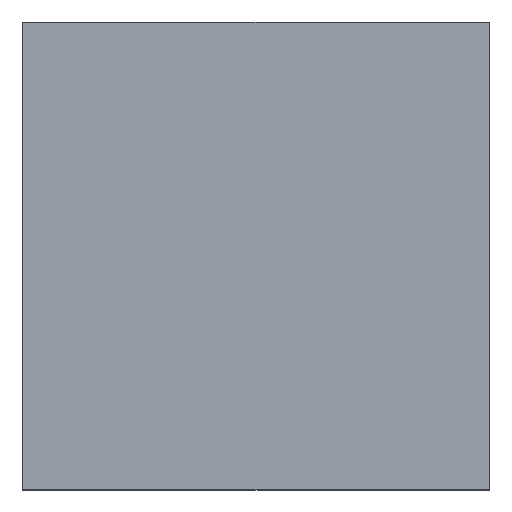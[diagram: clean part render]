
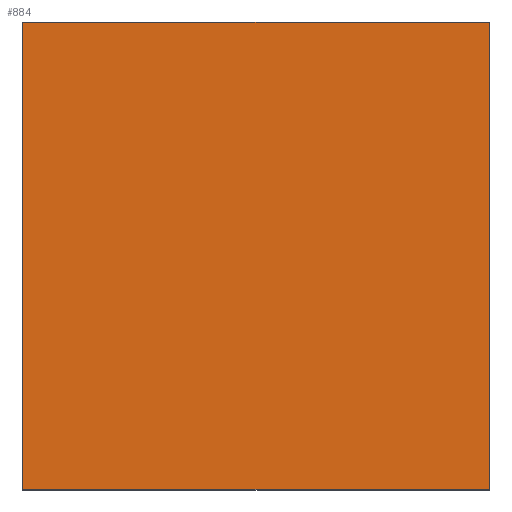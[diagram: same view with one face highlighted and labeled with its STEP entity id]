
A CAD part, top view. The second image highlights one B-rep face of the part: STEP entity #884.
In plain terms, the highlighted planar face has unit normal (0, 0, 1).
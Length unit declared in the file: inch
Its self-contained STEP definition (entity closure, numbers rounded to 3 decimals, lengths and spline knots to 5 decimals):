
#95 = VERTEX_POINT ( 'NONE', #1019 ) ;
#138 = CARTESIAN_POINT ( 'NONE',  ( -1.38973, 4.0492, 5.60755 ) ) ;
#879 = DIRECTION ( 'NONE',  ( 0., 0., -1. ) ) ;
#884 = ADVANCED_FACE ( 'NONE', ( #14797 ), #10599, .F. ) ;
#1019 = CARTESIAN_POINT ( 'NONE',  ( 2.60527, 4.0492, 5.60755 ) ) ;
#1680 = ORIENTED_EDGE ( 'NONE', *, *, #26769, .T. ) ;
#2597 = CARTESIAN_POINT ( 'NONE',  ( 2.60527, 0.0492, 5.60755 ) ) ;
#2974 = DIRECTION ( 'NONE',  ( 0., -1., 0. ) ) ;
#3221 = DIRECTION ( 'NONE',  ( 0., 1., 0. ) ) ;
#5068 = CARTESIAN_POINT ( 'NONE',  ( -1.38973, 0.0492, 5.60755 ) ) ;
#6098 = VERTEX_POINT ( 'NONE', #5068 ) ;
#7230 = DIRECTION ( 'NONE',  ( 0., -1., 0. ) ) ;
#7364 = VERTEX_POINT ( 'NONE', #138 ) ;
#7523 = LINE ( 'NONE', #30147, #27994 ) ;
#7865 = CARTESIAN_POINT ( 'NONE',  ( 2.60527, 0.0492, 5.60755 ) ) ;
#8477 = EDGE_CURVE ( 'NONE', #7364, #6098, #27094, .T. ) ;
#10599 = PLANE ( 'NONE',  #21950 ) ;
#10670 = EDGE_CURVE ( 'NONE', #24010, #6098, #23088, .T. ) ;
#11686 = DIRECTION ( 'NONE',  ( -1., 0., 0. ) ) ;
#11782 = DIRECTION ( 'NONE',  ( -1., 0., 0. ) ) ;
#12291 = CARTESIAN_POINT ( 'NONE',  ( 2.60527, 4.0492, 5.60755 ) ) ;
#13411 = ORIENTED_EDGE ( 'NONE', *, *, #10670, .F. ) ;
#13432 = VECTOR ( 'NONE', #2974, 39.37008 ) ;
#14797 = FACE_OUTER_BOUND ( 'NONE', #24636, .T. ) ;
#21167 = VECTOR ( 'NONE', #11782, 39.37008 ) ;
#21950 = AXIS2_PLACEMENT_3D ( 'NONE', #29906, #879, #3221 ) ;
#23088 = LINE ( 'NONE', #2597, #21167 ) ;
#24010 = VERTEX_POINT ( 'NONE', #7865 ) ;
#24636 = EDGE_LOOP ( 'NONE', ( #25423, #13411, #29095, #1680 ) ) ;
#24854 = CARTESIAN_POINT ( 'NONE',  ( -1.38973, 4.0492, 5.60755 ) ) ;
#25130 = EDGE_CURVE ( 'NONE', #95, #24010, #29743, .T. ) ;
#25423 = ORIENTED_EDGE ( 'NONE', *, *, #8477, .T. ) ;
#26332 = VECTOR ( 'NONE', #7230, 39.37008 ) ;
#26769 = EDGE_CURVE ( 'NONE', #95, #7364, #7523, .T. ) ;
#27094 = LINE ( 'NONE', #24854, #26332 ) ;
#27994 = VECTOR ( 'NONE', #11686, 39.37008 ) ;
#29095 = ORIENTED_EDGE ( 'NONE', *, *, #25130, .F. ) ;
#29743 = LINE ( 'NONE', #12291, #13432 ) ;
#29906 = CARTESIAN_POINT ( 'NONE',  ( 2.60527, 4.0492, 5.60755 ) ) ;
#30147 = CARTESIAN_POINT ( 'NONE',  ( 2.60527, 4.0492, 5.60755 ) ) ;
